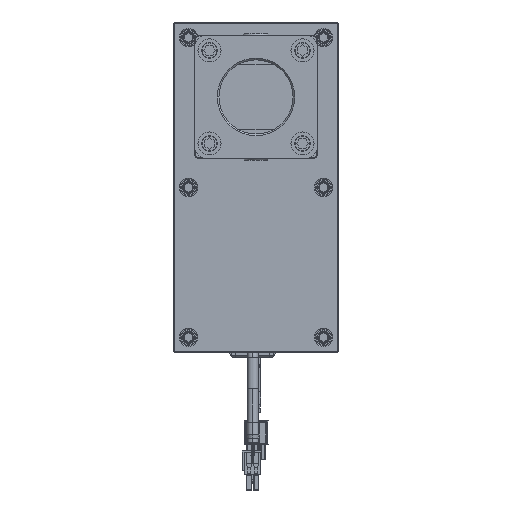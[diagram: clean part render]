
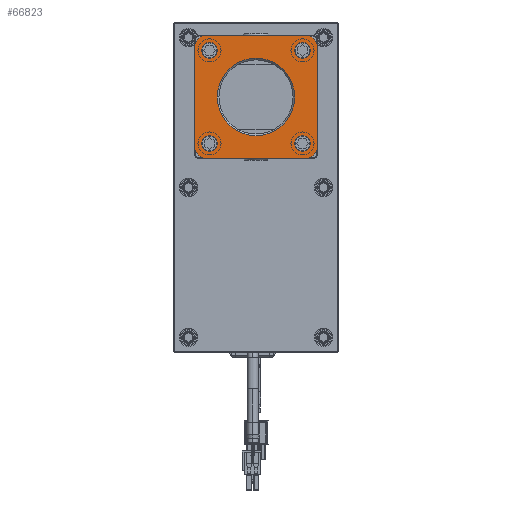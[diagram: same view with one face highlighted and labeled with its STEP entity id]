
A CAD part, front view. The second image highlights one B-rep face of the part: STEP entity #66823.
In plain terms, the highlighted planar face has unit normal (0, -1, 0).
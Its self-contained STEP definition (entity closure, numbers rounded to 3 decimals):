
#65878=CARTESIAN_POINT('',(29.5,-5.,29.5));
#65879=DIRECTION('',(0.,-1.,0.));
#65880=DIRECTION('',(1.,0.,0.));
#65881=AXIS2_PLACEMENT_3D('',#65878,#65879,#65880);
#65883=DIRECTION('',(0.,0.,-1.));
#65884=VECTOR('',#65883,59.);
#65885=CARTESIAN_POINT('',(37.5,-5.,29.5));
#65886=LINE('',#65885,#65884);
#65887=CARTESIAN_POINT('',(29.5,-5.,-29.5));
#65888=DIRECTION('',(0.,-1.,0.));
#65889=DIRECTION('',(0.,0.,-1.));
#65890=AXIS2_PLACEMENT_3D('',#65887,#65888,#65889);
#65892=DIRECTION('',(-1.,0.,0.));
#65893=VECTOR('',#65892,59.);
#65894=CARTESIAN_POINT('',(29.5,-5.,-37.5));
#65895=LINE('',#65894,#65893);
#65896=CARTESIAN_POINT('',(-29.5,-5.,-29.5));
#65897=DIRECTION('',(0.,-1.,0.));
#65898=DIRECTION('',(-1.,0.,0.));
#65899=AXIS2_PLACEMENT_3D('',#65896,#65897,#65898);
#65901=DIRECTION('',(0.,0.,1.));
#65902=VECTOR('',#65901,59.);
#65903=CARTESIAN_POINT('',(-37.5,-5.,-29.5));
#65904=LINE('',#65903,#65902);
#65905=CARTESIAN_POINT('',(-29.5,-5.,29.5));
#65906=DIRECTION('',(0.,-1.,0.));
#65907=DIRECTION('',(0.,0.,1.));
#65908=AXIS2_PLACEMENT_3D('',#65905,#65906,#65907);
#65910=DIRECTION('',(1.,0.,0.));
#65911=VECTOR('',#65910,59.);
#65912=CARTESIAN_POINT('',(-29.5,-5.,37.5));
#65913=LINE('',#65912,#65911);
#65914=CARTESIAN_POINT('',(28.25,-5.,-28.25));
#65915=DIRECTION('',(0.,1.,0.));
#65916=DIRECTION('',(1.,0.,0.));
#65917=AXIS2_PLACEMENT_3D('',#65914,#65915,#65916);
#65919=CARTESIAN_POINT('',(28.25,-5.,-28.25));
#65920=DIRECTION('',(0.,1.,0.));
#65921=DIRECTION('',(-1.,0.,0.));
#65922=AXIS2_PLACEMENT_3D('',#65919,#65920,#65921);
#65924=CARTESIAN_POINT('',(28.25,-5.,28.25));
#65925=DIRECTION('',(0.,1.,0.));
#65926=DIRECTION('',(-1.,0.,0.));
#65927=AXIS2_PLACEMENT_3D('',#65924,#65925,#65926);
#65929=CARTESIAN_POINT('',(28.25,-5.,28.25));
#65930=DIRECTION('',(0.,1.,0.));
#65931=DIRECTION('',(1.,0.,0.));
#65932=AXIS2_PLACEMENT_3D('',#65929,#65930,#65931);
#65934=CARTESIAN_POINT('',(-28.25,-5.,28.25));
#65935=DIRECTION('',(0.,1.,0.));
#65936=DIRECTION('',(-1.,0.,0.));
#65937=AXIS2_PLACEMENT_3D('',#65934,#65935,#65936);
#65939=CARTESIAN_POINT('',(-28.25,-5.,28.25));
#65940=DIRECTION('',(0.,1.,0.));
#65941=DIRECTION('',(1.,0.,0.));
#65942=AXIS2_PLACEMENT_3D('',#65939,#65940,#65941);
#65944=CARTESIAN_POINT('',(-28.25,-5.,-28.25));
#65945=DIRECTION('',(0.,1.,0.));
#65946=DIRECTION('',(1.,0.,0.));
#65947=AXIS2_PLACEMENT_3D('',#65944,#65945,#65946);
#65949=CARTESIAN_POINT('',(-28.25,-5.,-28.25));
#65950=DIRECTION('',(0.,1.,0.));
#65951=DIRECTION('',(-1.,0.,0.));
#65952=AXIS2_PLACEMENT_3D('',#65949,#65950,#65951);
#65954=CARTESIAN_POINT('',(0.,-5.,0.));
#65955=DIRECTION('',(0.,1.,0.));
#65956=DIRECTION('',(0.,0.,1.));
#65957=AXIS2_PLACEMENT_3D('',#65954,#65955,#65956);
#65959=CARTESIAN_POINT('',(0.,-5.,0.));
#65960=DIRECTION('',(0.,1.,0.));
#65961=DIRECTION('',(0.,0.,-1.));
#65962=AXIS2_PLACEMENT_3D('',#65959,#65960,#65961);
#66614=CARTESIAN_POINT('',(37.5,-5.,29.5));
#66615=CARTESIAN_POINT('',(29.5,-5.,37.5));
#66616=VERTEX_POINT('',#66614);
#66617=VERTEX_POINT('',#66615);
#66622=CARTESIAN_POINT('',(-29.5,-5.,37.5));
#66623=CARTESIAN_POINT('',(-37.5,-5.,29.5));
#66624=VERTEX_POINT('',#66622);
#66625=VERTEX_POINT('',#66623);
#66630=CARTESIAN_POINT('',(29.5,-5.,-37.5));
#66631=CARTESIAN_POINT('',(37.5,-5.,-29.5));
#66632=VERTEX_POINT('',#66630);
#66633=VERTEX_POINT('',#66631);
#66638=CARTESIAN_POINT('',(-37.5,-5.,-29.5));
#66639=CARTESIAN_POINT('',(-29.5,-5.,-37.5));
#66640=VERTEX_POINT('',#66638);
#66641=VERTEX_POINT('',#66639);
#66662=CARTESIAN_POINT('',(33.05,-5.,-28.25));
#66663=CARTESIAN_POINT('',(23.45,-5.,-28.25));
#66664=VERTEX_POINT('',#66662);
#66665=VERTEX_POINT('',#66663);
#66670=CARTESIAN_POINT('',(23.45,-5.,28.25));
#66671=CARTESIAN_POINT('',(33.05,-5.,28.25));
#66672=VERTEX_POINT('',#66670);
#66673=VERTEX_POINT('',#66671);
#66678=CARTESIAN_POINT('',(-33.05,-5.,28.25));
#66679=CARTESIAN_POINT('',(-23.45,-5.,28.25));
#66680=VERTEX_POINT('',#66678);
#66681=VERTEX_POINT('',#66679);
#66686=CARTESIAN_POINT('',(-23.45,-5.,-28.25));
#66687=CARTESIAN_POINT('',(-33.05,-5.,-28.25));
#66688=VERTEX_POINT('',#66686);
#66689=VERTEX_POINT('',#66687);
#66762=CARTESIAN_POINT('',(0.,-5.,23.5));
#66763=CARTESIAN_POINT('',(0.,-5.,-23.5));
#66764=VERTEX_POINT('',#66762);
#66765=VERTEX_POINT('',#66763);
#66770=CARTESIAN_POINT('',(0.,-5.,0.));
#66771=DIRECTION('',(0.,1.,0.));
#66772=DIRECTION('',(1.,0.,0.));
#66773=AXIS2_PLACEMENT_3D('',#66770,#66771,#66772);
#66774=PLANE('',#66773);
#66776=ORIENTED_EDGE('',*,*,#66775,.F.);
#66778=ORIENTED_EDGE('',*,*,#66777,.T.);
#66780=ORIENTED_EDGE('',*,*,#66779,.F.);
#66782=ORIENTED_EDGE('',*,*,#66781,.T.);
#66784=ORIENTED_EDGE('',*,*,#66783,.F.);
#66786=ORIENTED_EDGE('',*,*,#66785,.T.);
#66788=ORIENTED_EDGE('',*,*,#66787,.F.);
#66790=ORIENTED_EDGE('',*,*,#66789,.T.);
#66791=EDGE_LOOP('',(#66776,#66778,#66780,#66782,#66784,#66786,#66788,#66790));
#66792=FACE_OUTER_BOUND('',#66791,.F.);
#66794=ORIENTED_EDGE('',*,*,#66793,.F.);
#66796=ORIENTED_EDGE('',*,*,#66795,.F.);
#66797=EDGE_LOOP('',(#66794,#66796));
#66798=FACE_BOUND('',#66797,.F.);
#66800=ORIENTED_EDGE('',*,*,#66799,.F.);
#66802=ORIENTED_EDGE('',*,*,#66801,.F.);
#66803=EDGE_LOOP('',(#66800,#66802));
#66804=FACE_BOUND('',#66803,.F.);
#66806=ORIENTED_EDGE('',*,*,#66805,.F.);
#66808=ORIENTED_EDGE('',*,*,#66807,.F.);
#66809=EDGE_LOOP('',(#66806,#66808));
#66810=FACE_BOUND('',#66809,.F.);
#66812=ORIENTED_EDGE('',*,*,#66811,.F.);
#66814=ORIENTED_EDGE('',*,*,#66813,.F.);
#66815=EDGE_LOOP('',(#66812,#66814));
#66816=FACE_BOUND('',#66815,.F.);
#66818=ORIENTED_EDGE('',*,*,#66817,.F.);
#66820=ORIENTED_EDGE('',*,*,#66819,.F.);
#66821=EDGE_LOOP('',(#66818,#66820));
#66822=FACE_BOUND('',#66821,.F.);
#66823=ADVANCED_FACE('',(#66792,#66798,#66804,#66810,#66816,#66822),#66774,.F.);
#65882=CIRCLE('',#65881,8.);
#65891=CIRCLE('',#65890,8.);
#65900=CIRCLE('',#65899,8.);
#65909=CIRCLE('',#65908,8.);
#65918=CIRCLE('',#65917,4.8);
#65923=CIRCLE('',#65922,4.8);
#65928=CIRCLE('',#65927,4.8);
#65933=CIRCLE('',#65932,4.8);
#65938=CIRCLE('',#65937,4.8);
#65943=CIRCLE('',#65942,4.8);
#65948=CIRCLE('',#65947,4.8);
#65953=CIRCLE('',#65952,4.8);
#65958=CIRCLE('',#65957,23.5);
#65963=CIRCLE('',#65962,23.5);
#66775=EDGE_CURVE('',#66616,#66617,#65882,.T.);
#66777=EDGE_CURVE('',#66616,#66633,#65886,.T.);
#66779=EDGE_CURVE('',#66632,#66633,#65891,.T.);
#66781=EDGE_CURVE('',#66632,#66641,#65895,.T.);
#66783=EDGE_CURVE('',#66640,#66641,#65900,.T.);
#66785=EDGE_CURVE('',#66640,#66625,#65904,.T.);
#66787=EDGE_CURVE('',#66624,#66625,#65909,.T.);
#66789=EDGE_CURVE('',#66624,#66617,#65913,.T.);
#66793=EDGE_CURVE('',#66664,#66665,#65918,.T.);
#66795=EDGE_CURVE('',#66665,#66664,#65923,.T.);
#66799=EDGE_CURVE('',#66672,#66673,#65928,.T.);
#66801=EDGE_CURVE('',#66673,#66672,#65933,.T.);
#66805=EDGE_CURVE('',#66680,#66681,#65938,.T.);
#66807=EDGE_CURVE('',#66681,#66680,#65943,.T.);
#66811=EDGE_CURVE('',#66688,#66689,#65948,.T.);
#66813=EDGE_CURVE('',#66689,#66688,#65953,.T.);
#66817=EDGE_CURVE('',#66764,#66765,#65958,.T.);
#66819=EDGE_CURVE('',#66765,#66764,#65963,.T.);
